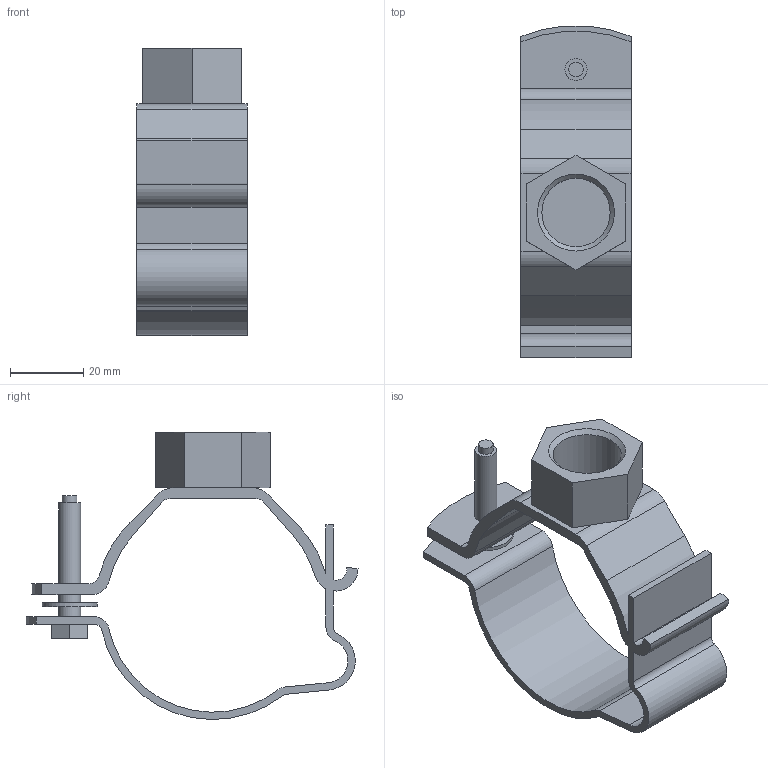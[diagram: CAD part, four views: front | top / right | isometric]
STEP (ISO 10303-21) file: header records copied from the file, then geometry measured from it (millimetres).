
FILE_DESCRIPTION( ( 'STEP AP214' ), '1' );
FILE_NAME( 'C:/Users/ilukic/Documents/ex/gebaudeentwasserung/pe/pipe bracket G1_2 adjustable/361841.stp', '2020-03-26T18:42:04', ( '' ), ( '' ), ' ', 'PARTsolutions', ' ' );
FILE_SCHEMA( ( 'AUTOMOTIVE_DESIGN { 1 0 10303 214 1 1 1 1 }' ) );
Length unit declared in the file: millimetre
Products named in the file (1): _361841
Bounding box: 30 x 90.42 x 78.2 mm (x, y, z)
Volume: 25229.5 mm3; surface area: 20207.5 mm2
Topology: 1 solids, 1 shells, 75 faces, 197 edges, 130 vertices
Faces by surface type: plane 42, cylinder 32, cone 1
Full cylindrical faces by diameter (mm): 4 x1, 6 x3, 15 x1, 18.631 x1
Entity records: 2900 total; most frequent: DIRECTION 406, CARTESIAN_POINT 394, ORIENTED_EDGE 378, EDGE_CURVE 189, AXIS2_PLACEMENT_3D 141, VERTEX_POINT 129, LINE 124, VECTOR 124
